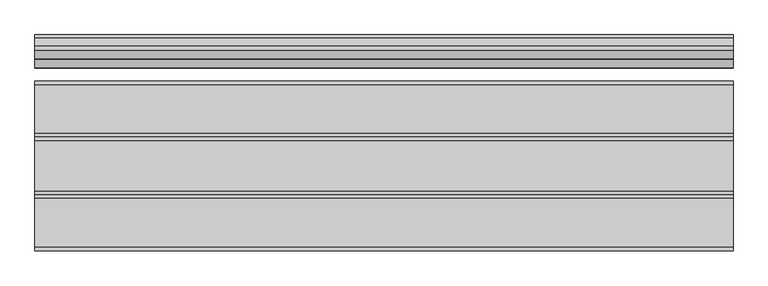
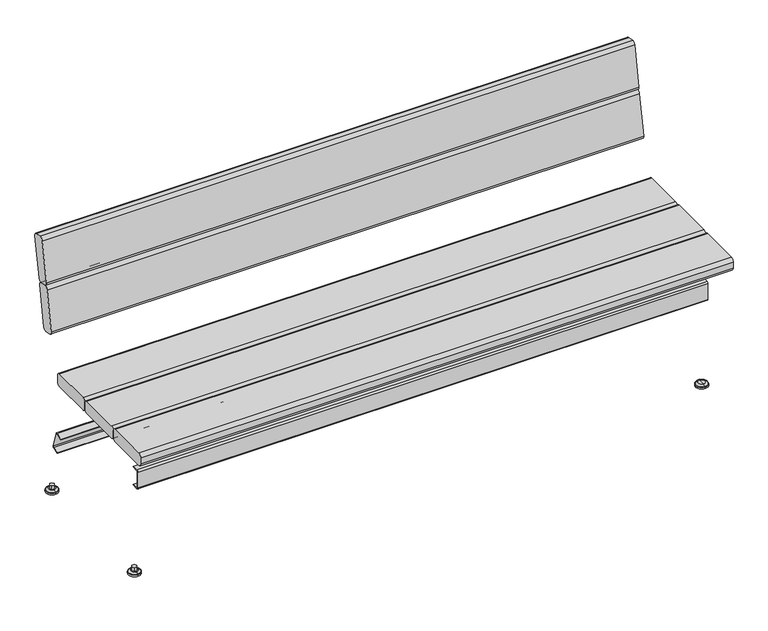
"""IFC4 building model written with IfcOpenShell, lengths in millimetres: furniture geometry, Roros Produkter - Trend - Bench - Backrest - 32982 : Roros Produkter - Trend - Bench - Backrest - 32982."""

import ifcopenshell
import ifcopenshell.guid

model = None  # the IFC model being written
_history = None  # IfcOwnerHistory: only IFC2X3 demands one
_inside = {}  # id of a spatial element -> (the spatial element, [elements in it])
_under = {}  # id of a project, library or spatial element -> (it, [spatial elements below it])
_declared = {}  # id of a project -> (the project, [libraries it declares])
_typed = {}  # id of a type object -> (the type object, [elements of that type])
_made_of = {}  # id of a material, layer set ... -> (it, [elements and type objects made of it])


def new_model(schema):
    """Start an empty IFC model of exactly this schema.

    Asked for "IFC4X3", IfcOpenShell would pick the latest addendum, in which some entities
    have other attributes; the version numbers below select the first issue.
    IFC2X3 requires an IfcOwnerHistory on every rooted entity: one is made here for all.
    """
    global model, _history
    if schema == "IFC4X3":
        model = ifcopenshell.file(schema_version=(4, 3, 0, 0))
    else:
        model = ifcopenshell.file(schema=schema)
    _inside.clear()
    _under.clear()
    _declared.clear()
    _typed.clear()
    _made_of.clear()
    _history = None
    if model.schema == "IFC2X3":
        org = make("IfcOrganization", Name="unknown")
        user = make(
            "IfcPersonAndOrganization",
            ThePerson=make("IfcPerson", FamilyName="unknown"),
            TheOrganization=org,
        )
        app = make(
            "IfcApplication",
            ApplicationDeveloper=org,
            Version="unknown",
            ApplicationFullName="unknown",
            ApplicationIdentifier="unknown",
        )
        _history = make(
            "IfcOwnerHistory",
            OwningUser=user,
            OwningApplication=app,
            ChangeAction="ADDED",
            CreationDate=0,
        )
    return model


def make(cls, **values):
    """One entity of the class cls with the attributes given. An attribute that is None is left unset."""
    return model.create_entity(
        cls, **{name: value for name, value in values.items() if value is not None}
    )


def rooted(cls, **values):
    """An entity with a GlobalId (a new one), such as an element, a storey or a relation."""
    return make(cls, GlobalId=ifcopenshell.guid.new(), OwnerHistory=_history, **values)


def si_unit(unit_type, name, prefix=None):
    """IfcSIUnit, for example si_unit("LENGTHUNIT", "METRE", prefix="MILLI")."""
    return make("IfcSIUnit", UnitType=unit_type, Prefix=prefix, Name=name)


def assignment(units):
    """IfcUnitAssignment: the units of a project."""
    return None if units is None else make("IfcUnitAssignment", Units=units)


def point(xyz):
    """IfcCartesianPoint."""
    return None if xyz is None else make("IfcCartesianPoint", Coordinates=xyz)


def direction(xyz):
    """IfcDirection."""
    return None if xyz is None else make("IfcDirection", DirectionRatios=xyz)


def frame(location, z_axis=None, x_axis=None):
    """IfcAxis2Placement3D, a coordinate frame: its origin and axes. An axis left out is left unset."""
    return make(
        "IfcAxis2Placement3D",
        Location=point(location),
        Axis=direction(z_axis),
        RefDirection=direction(x_axis),
    )


def frame_2d(location, x_axis=None):
    """IfcAxis2Placement2D, a coordinate frame in the plane: its origin and x axis."""
    return make(
        "IfcAxis2Placement2D", Location=point(location), RefDirection=direction(x_axis)
    )


def origin():
    """The frame at (0, 0, 0) with its axes left unset."""
    return frame((0.0, 0.0, 0.0))


def place(relative_to, where):
    """IfcLocalPlacement: puts the frame where relative to a parent placement (None: the world)."""
    return make(
        "IfcLocalPlacement", PlacementRelTo=relative_to, RelativePlacement=where
    )


def context(
    kind, dimensions, precision=None, world=None, true_north=None, identifier=None
):
    """IfcGeometricRepresentationContext, for example the 3D "Model" context."""
    return make(
        "IfcGeometricRepresentationContext",
        ContextIdentifier=identifier,
        ContextType=kind,
        CoordinateSpaceDimension=dimensions,
        Precision=precision,
        WorldCoordinateSystem=world,
        TrueNorth=true_north,
    )


def project(units=None, contexts=None):
    """IfcProject with its units and contexts."""
    return rooted(
        "IfcProject",
        Name="project",
        RepresentationContexts=contexts,
        UnitsInContext=assignment(units),
    )


def spatial(cls, under=None, at=None, **own):
    """A site, building, storey or space (cls), placed at a placement, below another one or the project."""
    s = rooted(cls, ObjectPlacement=at, **own)
    if under is not None:
        _under.setdefault(under.id(), (under, []))[1].append(s)
    return s


def polyline(points):
    """IfcPolyline through the points."""
    return make("IfcPolyline", Points=[point(p) for p in points])


def circle_curve(where, radius):
    """IfcCircle in the frame where."""
    return make("IfcCircle", Position=where, Radius=radius)


def ellipse_curve(where, semi_axis1, semi_axis2):
    """IfcEllipse in the frame where."""
    return make(
        "IfcEllipse", Position=where, SemiAxis1=semi_axis1, SemiAxis2=semi_axis2
    )


def trimmed(basis, trim1, trim2, sense, master):
    """IfcTrimmedCurve: the piece of a basis curve between two trims."""
    return make(
        "IfcTrimmedCurve",
        BasisCurve=basis,
        Trim1=trim1,
        Trim2=trim2,
        SenseAgreement=sense,
        MasterRepresentation=master,
    )


def segment(curve, same_sense, transition):
    """IfcCompositeCurveSegment."""
    return make(
        "IfcCompositeCurveSegment",
        Transition=transition,
        SameSense=same_sense,
        ParentCurve=curve,
    )


def composite_curve(segments, self_intersect=None):
    """IfcCompositeCurve: segments joined end to end."""
    return make("IfcCompositeCurve", Segments=segments, SelfIntersect=self_intersect)


def outline(outer, holes=None, kind="AREA"):
    """IfcArbitraryClosedProfileDef: a profile drawn as a closed curve; with holes, ...WithVoids."""
    if holes is None:
        return make("IfcArbitraryClosedProfileDef", ProfileType=kind, OuterCurve=outer)
    return make(
        "IfcArbitraryProfileDefWithVoids",
        ProfileType=kind,
        OuterCurve=outer,
        InnerCurves=holes,
    )


def extrude(swept, where, along, depth):
    """IfcExtrudedAreaSolid: the profile swept, set in the frame where, extruded along a direction by depth."""
    return make(
        "IfcExtrudedAreaSolid",
        SweptArea=swept,
        Position=where,
        ExtrudedDirection=direction(along),
        Depth=depth,
    )


def shape(context_of_items, identifier, shape_type, items):
    """IfcShapeRepresentation: the items that make up one representation, for example the "Body"."""
    return make(
        "IfcShapeRepresentation",
        ContextOfItems=context_of_items,
        RepresentationIdentifier=identifier,
        RepresentationType=shape_type,
        Items=items,
    )


def source(mapping_origin, context_of_items, identifier, shape_type, items):
    """IfcRepresentationMap: a shape defined once, which mapped items show again and again."""
    return make(
        "IfcRepresentationMap",
        MappingOrigin=mapping_origin,
        MappedRepresentation=shape(context_of_items, identifier, shape_type, items),
    )


def transform(
    local_origin,
    x_axis=None,
    y_axis=None,
    z_axis=None,
    scale=None,
    scale2=None,
    scale3=None,
    uniform=True,
):
    """IfcCartesianTransformationOperator3D, or its non-uniform kind. x_axis, y_axis, z_axis: its Axis1, 2, 3."""
    if uniform:
        return make(
            "IfcCartesianTransformationOperator3D",
            Axis1=direction(x_axis),
            Axis2=direction(y_axis),
            LocalOrigin=point(local_origin),
            Scale=scale,
            Axis3=direction(z_axis),
        )
    return make(
        "IfcCartesianTransformationOperator3DnonUniform",
        Axis1=direction(x_axis),
        Axis2=direction(y_axis),
        LocalOrigin=point(local_origin),
        Scale=scale,
        Axis3=direction(z_axis),
        Scale2=scale2,
        Scale3=scale3,
    )


def mapped(mapping_source, mapping_target):
    """IfcMappedItem: shows the shape of a source again, moved by a transform."""
    return make(
        "IfcMappedItem", MappingSource=mapping_source, MappingTarget=mapping_target
    )


def made_of(thing, what):
    """Note that an element or type object is made of a material, layer set ...; save() writes the relation."""
    if what is not None:
        _made_of.setdefault(what.id(), (what, []))[1].append(thing)
    return thing


def element(
    cls,
    number,
    at=None,
    inside=None,
    cuts=None,
    type_object=None,
    material=None,
    context=None,
    identifier="Body",
    shape_type=None,
    held_by="IfcProductDefinitionShape",
    body=None,
    shapes=None,
    **own,
):
    """One element of the class cls, such as IfcWall. Its Tag is "e" and its number.

    at: its placement. inside: the storey or other place that contains it. cuts: it is an
    opening in that element (IfcRelVoidsElement). A single representation is given by context,
    identifier, shape_type and body (its items); several are given by shapes. held_by: the class
    of the entity that holds the representations. save() writes the other relations.
    """
    e = rooted(cls, Tag="e%d" % number, ObjectPlacement=at, **own)
    if body is not None:
        shapes = [shape(context, identifier, shape_type, body)]
    if shapes is not None:
        e.Representation = make(held_by, Representations=shapes)
    if inside is not None:
        _inside.setdefault(inside.id(), (inside, []))[1].append(e)
    if cuts is not None:
        rooted(
            "IfcRelVoidsElement", RelatingBuildingElement=cuts, RelatedOpeningElement=e
        )
    if type_object is not None:
        _typed.setdefault(type_object.id(), (type_object, []))[1].append(e)
    return made_of(e, material)


def aggregate(whole, parts):
    """IfcRelAggregates: a whole, such as a stair, and the parts it consists of."""
    return rooted("IfcRelAggregates", RelatingObject=whole, RelatedObjects=parts)


def save(model, path):
    """Write the relations noted so far, then the file.

    IfcRelAggregates (storeys below a building ...), IfcRelContainedInSpatialStructure (elements
    in a storey), IfcRelDefinesByType, IfcRelAssociatesMaterial and IfcRelDeclares: one each for
    every whole, place, type object, material and project.
    """
    for whole, parts in _under.values():
        aggregate(whole, parts)
    for where, things in _inside.values():
        rooted(
            "IfcRelContainedInSpatialStructure",
            RelatedElements=things,
            RelatingStructure=where,
        )
    for kind, things in _typed.values():
        rooted("IfcRelDefinesByType", RelatedObjects=things, RelatingType=kind)
    for what, things in _made_of.values():
        rooted("IfcRelAssociatesMaterial", RelatedObjects=things, RelatingMaterial=what)
    for by, libraries in _declared.values():
        rooted("IfcRelDeclares", RelatingContext=by, RelatedDefinitions=libraries)
    model.write(path)


def plane_surface(at):
    """IfcPlane: the flat surface through the origin of the frame at, square to its z axis."""
    return make("IfcPlane", Position=at)


def cylinder_surface(at, radius):
    """IfcCylindricalSurface: all points at the distance radius from the z axis of the frame at."""
    return make("IfcCylindricalSurface", Position=at, Radius=radius)


def revolved_surface(curve, axis_point, axis_direction):
    """IfcSurfaceOfRevolution: the curve turned about the line through axis_point along axis_direction."""
    return make(
        "IfcSurfaceOfRevolution",
        SweptCurve=make("IfcArbitraryOpenProfileDef", ProfileType="CURVE", Curve=curve),
        AxisPosition=make("IfcAxis1Placement", Location=point(axis_point), Axis=direction(axis_direction)),
    )


def advanced_brep(points, edges, surfaces, faces):
    """IfcAdvancedBrep: a solid bounded by faces that lie on surfaces and meet in shared edges.

    An edge is (start, end): straight between two places in points (the first is 0);
    or (start, end, curve); or (start, end, curve, False) where it runs against its curve.
    A face is (place in surfaces, loops), or (place, loops, False) where it looks against
    its surface's normal. A loop lists edges by number (the first is 1), with a minus sign
    where the edge is run from its end to its start. The first loop is the outer one.
    """
    corners = [point(p) for p in points]
    vertices = [make("IfcVertexPoint", VertexGeometry=c) for c in corners]
    made = []
    for start, end, *more in edges:
        made.append(
            make(
                "IfcEdgeCurve",
                EdgeStart=vertices[start],
                EdgeEnd=vertices[end],
                EdgeGeometry=more[0] if more else make("IfcPolyline", Points=[corners[start], corners[end]]),
                SameSense=more[1] if len(more) > 1 else True,
            )
        )
    hull = []
    for where, loops, *sense in faces:
        bounds = []
        for j, loop in enumerate(loops):
            ring = [make("IfcOrientedEdge", EdgeElement=made[abs(k) - 1], Orientation=k > 0) for k in loop]
            bounds.append(
                make(
                    "IfcFaceOuterBound" if j == 0 else "IfcFaceBound",
                    Bound=make("IfcEdgeLoop", EdgeList=ring),
                    Orientation=True,
                )
            )
        hull.append(make("IfcAdvancedFace", Bounds=bounds, FaceSurface=surfaces[where], SameSense=sense[0] if sense else True))
    return make("IfcAdvancedBrep", Outer=make("IfcClosedShell", CfsFaces=hull))


def furniture_2495d7e9(model_context):
    return source(origin(), model_context, "Body", "SolidModel", [
        advanced_brep(
        [(865.78125, -199.3308404, 4.3376919), (865.78125, -236.3308404, 4.3376919), (865.78125, -236.3308404, 0.0), (865.78125, -199.3308404, 0.0), (865.78125, -200.3216002, 6.0888539), (865.78125, -235.3400807, 6.0888539), (865.78125, -206.8308404, 10.0), (865.78125, -228.8308404, 10.0), (865.78125, -217.8308404, 10.0), (865.78125, -217.8308404, 0.0)],
        [
            (0, 1, circle_curve(frame((865.78125, -217.8308404, 4.3376919), z_axis=(0.0, 0.0, -1.0), x_axis=(0.0, -1.0, 0.0)), 18.5)),
            (1, 2),
            (2, 3, circle_curve(frame((865.78125, -217.8308404, 0.0), z_axis=(0.0, 0.0, 1.0), x_axis=(0.0, -1.0, 0.0)), 18.5)),
            (3, 0),
            (1, 0, circle_curve(frame((865.78125, -217.8308404, 4.3376919), z_axis=(0.0, 0.0, -1.0), x_axis=(0.0, -1.0, 0.0)), 18.5)),
            (3, 2, circle_curve(frame((865.78125, -217.8308404, 0.0), z_axis=(0.0, 0.0, 1.0), x_axis=(0.0, -1.0, 0.0)), 18.5)),
            (4, 5, circle_curve(frame((865.78125, -217.8308404, 6.0888539), z_axis=(0.0, 0.0, -1.0), x_axis=(0.0, -1.0, 0.0)), 17.5092402)),
            (5, 1, circle_curve(frame((865.78125, -234.2878764, 4.3376919), z_axis=(1.0, 0.0, 0.0), x_axis=(0.0, 1.0, 0.0)), 2.042964)),
            (0, 4, circle_curve(frame((865.78125, -201.3738045, 4.3376919), z_axis=(1.0, 0.0, 0.0), x_axis=(0.0, -1.0, 0.0)), 2.042964)),
            (5, 4, circle_curve(frame((865.78125, -217.8308404, 6.0888539), z_axis=(0.0, 0.0, -1.0), x_axis=(0.0, -1.0, 0.0)), 17.5092402)),
            (6, 7, circle_curve(frame((865.78125, -217.8308404, 10.0), z_axis=(0.0, 0.0, -1.0), x_axis=(0.0, -1.0, 0.0)), 11.0)),
            (7, 5),
            (4, 6),
            (7, 6, circle_curve(frame((865.78125, -217.8308404, 10.0), z_axis=(0.0, 0.0, -1.0), x_axis=(0.0, -1.0, 0.0)), 11.0)),
            (8, 7),
            (6, 8),
            (2, 9),
            (9, 3),
        ],
        [
            cylinder_surface(frame((865.78125, -217.8308404, 10.0), z_axis=(0.0, 0.0, 1.0), x_axis=(0.0, -1.0, 0.0)), 18.5),
            revolved_surface(trimmed(ellipse_curve(frame((865.78125, -234.2878764, 4.3376919), z_axis=(-1.0, 0.0, 0.0), x_axis=(0.0, 1.0, 0.0)), 2.042964, 2.042964), [point((865.78125, -236.3308404, 4.3376919))], [point((865.78125, -235.3400807, 6.0888539))], True, "CARTESIAN"), (865.78125, -217.8308404, 10.0), (0.0, 0.0, 1.0)),
            revolved_surface(polyline([(865.78125, -235.3400807, 6.0888539), (865.78125, -228.8308404, 10.0)]), (865.78125, -217.8308404, 10.0), (0.0, 0.0, 1.0)),
            plane_surface(frame((865.78125, -217.8308404, 10.0), z_axis=(0.0, 0.0, 1.0), x_axis=(0.0, -1.0, 0.0))),
            plane_surface(frame((865.78125, -217.8308404, 0.0), z_axis=(0.0, 0.0, -1.0), x_axis=(0.0, -1.0, 0.0))),
        ],
        [
            (0, [[1, 2, 3, 4]]),
            (0, [[5, -4, 6, -2]]),
            (1, [[7, 8, -1, 9]]),
            (1, [[10, -9, -5, -8]]),
            (2, [[11, 12, -7, 13]]),
            (2, [[14, -13, -10, -12]]),
            (3, [[15, -11, 16]]),
            (3, [[-16, -14, -15]]),
            (4, [[-3, 17, 18]]),
            (4, [[-6, -18, -17]]),
        ],
    ),
        extrude(outline(polyline([(869.5527767, 224.3308404), (873.3055535, 217.8308404), (869.5527767, 211.3308404), (862.0472233, 211.3308404), (858.2944465, 217.8308404), (862.0472233, 224.3308404), (869.5527767, 224.3308404)])), frame((0.0, 0.0, 10.0), z_axis=(0.0, 0.0, 1.0), x_axis=(1.0, 0.0, 0.0)), (0.0, 0.0, 1.0), 11.7),
        advanced_brep(
        [(865.78125, 199.3308404, 0.0), (865.78125, 236.3308404, 0.0), (865.78125, 236.3308404, 4.3376919), (865.78125, 199.3308404, 4.3376919), (865.78125, 235.3400807, 6.0888539), (865.78125, 200.3216002, 6.0888539), (865.78125, 228.8308404, 10.0), (865.78125, 206.8308404, 10.0), (865.78125, 217.8308404, 10.0), (865.78125, 217.8308404, 0.0)],
        [
            (0, 1, circle_curve(frame((865.78125, 217.8308404, 0.0), z_axis=(0.0, 0.0, 1.0), x_axis=(0.0, 1.0, 0.0)), 18.5)),
            (1, 2),
            (2, 3, circle_curve(frame((865.78125, 217.8308404, 4.3376919), z_axis=(0.0, 0.0, -1.0), x_axis=(0.0, 1.0, 0.0)), 18.5)),
            (3, 0),
            (1, 0, circle_curve(frame((865.78125, 217.8308404, 0.0), z_axis=(0.0, 0.0, 1.0), x_axis=(0.0, 1.0, 0.0)), 18.5)),
            (3, 2, circle_curve(frame((865.78125, 217.8308404, 4.3376919), z_axis=(0.0, 0.0, -1.0), x_axis=(0.0, 1.0, 0.0)), 18.5)),
            (2, 4, circle_curve(frame((865.78125, 234.2878764, 4.3376919), z_axis=(1.0, 0.0, 0.0), x_axis=(0.0, -1.0, 0.0)), 2.042964)),
            (4, 5, circle_curve(frame((865.78125, 217.8308404, 6.0888539), z_axis=(0.0, 0.0, -1.0), x_axis=(0.0, 1.0, 0.0)), 17.5092402)),
            (5, 3, circle_curve(frame((865.78125, 201.3738045, 4.3376919), z_axis=(1.0, 0.0, 0.0), x_axis=(0.0, 1.0, 0.0)), 2.042964)),
            (5, 4, circle_curve(frame((865.78125, 217.8308404, 6.0888539), z_axis=(0.0, 0.0, -1.0), x_axis=(0.0, 1.0, 0.0)), 17.5092402)),
            (4, 6),
            (6, 7, circle_curve(frame((865.78125, 217.8308404, 10.0), z_axis=(0.0, 0.0, -1.0), x_axis=(0.0, 1.0, 0.0)), 11.0)),
            (7, 5),
            (7, 6, circle_curve(frame((865.78125, 217.8308404, 10.0), z_axis=(0.0, 0.0, -1.0), x_axis=(0.0, 1.0, 0.0)), 11.0)),
            (6, 8),
            (8, 7),
            (9, 1),
            (0, 9),
        ],
        [
            cylinder_surface(frame((865.78125, 217.8308404, 10.0), z_axis=(0.0, 0.0, -1.0), x_axis=(0.0, 1.0, 0.0)), 18.5),
            revolved_surface(trimmed(ellipse_curve(frame((865.78125, 234.2878764, 4.3376919), z_axis=(-1.0, 0.0, 0.0), x_axis=(0.0, -1.0, 0.0)), 2.042964, 2.042964), [point((865.78125, 235.3400807, 6.0888539))], [point((865.78125, 236.3308404, 4.3376919))], True, "CARTESIAN"), (865.78125, 217.8308404, 10.0), (0.0, 0.0, -1.0)),
            revolved_surface(polyline([(865.78125, 228.8308404, 10.0), (865.78125, 235.3400807, 6.0888539)]), (865.78125, 217.8308404, 10.0), (0.0, 0.0, -1.0)),
            plane_surface(frame((865.78125, 217.8308404, 10.0), z_axis=(0.0, 0.0, 1.0), x_axis=(0.0, 1.0, 0.0))),
            plane_surface(frame((865.78125, 217.8308404, 0.0), z_axis=(0.0, 0.0, -1.0), x_axis=(0.0, 1.0, 0.0))),
        ],
        [
            (0, [[1, 2, 3, 4]]),
            (0, [[5, -4, 6, -2]]),
            (1, [[-3, 7, 8, 9]]),
            (1, [[-6, -9, 10, -7]]),
            (2, [[-8, 11, 12, 13]]),
            (2, [[-10, -13, 14, -11]]),
            (3, [[-12, 15, 16]]),
            (3, [[-14, -16, -15]]),
            (4, [[17, -1, 18]]),
            (4, [[-18, -5, -17]]),
        ],
    ),
        extrude(outline(polyline([(-869.5527767, -224.3308404), (-873.3055535, -217.8308404), (-869.5527767, -211.3308404), (-862.0472233, -211.3308404), (-858.2944465, -217.8308404), (-862.0472233, -224.3308404), (-869.5527767, -224.3308404)])), frame((0.0, 0.0, 10.0), z_axis=(0.0, 0.0, 1.0), x_axis=(1.0, 0.0, 0.0)), (0.0, 0.0, 1.0), 11.7),
        advanced_brep(
        [(-865.78125, -199.3308404, 0.0), (-865.78125, -236.3308404, 0.0), (-865.78125, -236.3308404, 4.3376919), (-865.78125, -199.3308404, 4.3376919), (-865.78125, -235.3400807, 6.0888539), (-865.78125, -200.3216002, 6.0888539), (-865.78125, -228.8308404, 10.0), (-865.78125, -206.8308404, 10.0), (-865.78125, -217.8308404, 10.0), (-865.78125, -217.8308404, 0.0)],
        [
            (0, 1, circle_curve(frame((-865.78125, -217.8308404, 0.0), z_axis=(0.0, 0.0, 1.0), x_axis=(0.0, -1.0, 0.0)), 18.5)),
            (1, 2),
            (2, 3, circle_curve(frame((-865.78125, -217.8308404, 4.3376919), z_axis=(0.0, 0.0, -1.0), x_axis=(0.0, -1.0, 0.0)), 18.5)),
            (3, 0),
            (1, 0, circle_curve(frame((-865.78125, -217.8308404, 0.0), z_axis=(0.0, 0.0, 1.0), x_axis=(0.0, -1.0, 0.0)), 18.5)),
            (3, 2, circle_curve(frame((-865.78125, -217.8308404, 4.3376919), z_axis=(0.0, 0.0, -1.0), x_axis=(0.0, -1.0, 0.0)), 18.5)),
            (2, 4, circle_curve(frame((-865.78125, -234.2878764, 4.3376919), z_axis=(-1.0, 0.0, 0.0), x_axis=(0.0, 1.0, 0.0)), 2.042964)),
            (4, 5, circle_curve(frame((-865.78125, -217.8308404, 6.0888539), z_axis=(0.0, 0.0, -1.0), x_axis=(0.0, -1.0, 0.0)), 17.5092402)),
            (5, 3, circle_curve(frame((-865.78125, -201.3738045, 4.3376919), z_axis=(-1.0, 0.0, 0.0), x_axis=(0.0, -1.0, 0.0)), 2.042964)),
            (5, 4, circle_curve(frame((-865.78125, -217.8308404, 6.0888539), z_axis=(0.0, 0.0, -1.0), x_axis=(0.0, -1.0, 0.0)), 17.5092402)),
            (4, 6),
            (6, 7, circle_curve(frame((-865.78125, -217.8308404, 10.0), z_axis=(0.0, 0.0, -1.0), x_axis=(0.0, -1.0, 0.0)), 11.0)),
            (7, 5),
            (7, 6, circle_curve(frame((-865.78125, -217.8308404, 10.0), z_axis=(0.0, 0.0, -1.0), x_axis=(0.0, -1.0, 0.0)), 11.0)),
            (6, 8),
            (8, 7),
            (9, 1),
            (0, 9),
        ],
        [
            cylinder_surface(frame((-865.78125, -217.8308404, 10.0), z_axis=(0.0, 0.0, -1.0), x_axis=(0.0, -1.0, 0.0)), 18.5),
            revolved_surface(trimmed(ellipse_curve(frame((-865.78125, -234.2878764, 4.3376919), z_axis=(1.0, 0.0, 0.0), x_axis=(0.0, 1.0, 0.0)), 2.042964, 2.042964), [point((-865.78125, -235.3400807, 6.0888539))], [point((-865.78125, -236.3308404, 4.3376919))], True, "CARTESIAN"), (-865.78125, -217.8308404, 10.0), (0.0, 0.0, -1.0)),
            revolved_surface(polyline([(-865.78125, -228.8308404, 10.0), (-865.78125, -235.3400807, 6.0888539)]), (-865.78125, -217.8308404, 10.0), (0.0, 0.0, -1.0)),
            plane_surface(frame((-865.78125, -217.8308404, 10.0), z_axis=(0.0, 0.0, 1.0), x_axis=(0.0, -1.0, 0.0))),
            plane_surface(frame((-865.78125, -217.8308404, 0.0), z_axis=(0.0, 0.0, -1.0), x_axis=(0.0, -1.0, 0.0))),
        ],
        [
            (0, [[1, 2, 3, 4]]),
            (0, [[5, -4, 6, -2]]),
            (1, [[-3, 7, 8, 9]]),
            (1, [[-6, -9, 10, -7]]),
            (2, [[-8, 11, 12, 13]]),
            (2, [[-10, -13, 14, -11]]),
            (3, [[-12, 15, 16]]),
            (3, [[-14, -16, -15]]),
            (4, [[17, -1, 18]]),
            (4, [[-18, -5, -17]]),
        ],
    ),
        extrude(outline(polyline([(-869.5527767, 224.3308404), (-862.0472233, 224.3308404), (-858.2944465, 217.8308404), (-862.0472233, 211.3308404), (-869.5527767, 211.3308404), (-873.3055535, 217.8308404), (-869.5527767, 224.3308404)])), frame((0.0, 0.0, 10.0), z_axis=(0.0, 0.0, 1.0), x_axis=(1.0, 0.0, 0.0)), (0.0, 0.0, 1.0), 11.7),
        advanced_brep(
        [(-865.78125, 199.3308404, 4.3376919), (-865.78125, 236.3308404, 4.3376919), (-865.78125, 236.3308404, 0.0), (-865.78125, 199.3308404, 0.0), (-865.78125, 200.3216002, 6.0888539), (-865.78125, 235.3400807, 6.0888539), (-865.78125, 206.8308404, 10.0), (-865.78125, 228.8308404, 10.0), (-865.78125, 217.8308404, 10.0), (-865.78125, 217.8308404, 0.0)],
        [
            (0, 1, circle_curve(frame((-865.78125, 217.8308404, 4.3376919), z_axis=(0.0, 0.0, -1.0), x_axis=(0.0, 1.0, 0.0)), 18.5)),
            (1, 2),
            (2, 3, circle_curve(frame((-865.78125, 217.8308404, 0.0), z_axis=(0.0, 0.0, 1.0), x_axis=(0.0, 1.0, 0.0)), 18.5)),
            (3, 0),
            (1, 0, circle_curve(frame((-865.78125, 217.8308404, 4.3376919), z_axis=(0.0, 0.0, -1.0), x_axis=(0.0, 1.0, 0.0)), 18.5)),
            (3, 2, circle_curve(frame((-865.78125, 217.8308404, 0.0), z_axis=(0.0, 0.0, 1.0), x_axis=(0.0, 1.0, 0.0)), 18.5)),
            (4, 5, circle_curve(frame((-865.78125, 217.8308404, 6.0888539), z_axis=(0.0, 0.0, -1.0), x_axis=(0.0, 1.0, 0.0)), 17.5092402)),
            (5, 1, circle_curve(frame((-865.78125, 234.2878764, 4.3376919), z_axis=(-1.0, 0.0, 0.0), x_axis=(0.0, -1.0, 0.0)), 2.042964)),
            (0, 4, circle_curve(frame((-865.78125, 201.3738045, 4.3376919), z_axis=(-1.0, 0.0, 0.0), x_axis=(0.0, 1.0, 0.0)), 2.042964)),
            (5, 4, circle_curve(frame((-865.78125, 217.8308404, 6.0888539), z_axis=(0.0, 0.0, -1.0), x_axis=(0.0, 1.0, 0.0)), 17.5092402)),
            (6, 7, circle_curve(frame((-865.78125, 217.8308404, 10.0), z_axis=(0.0, 0.0, -1.0), x_axis=(0.0, 1.0, 0.0)), 11.0)),
            (7, 5),
            (4, 6),
            (7, 6, circle_curve(frame((-865.78125, 217.8308404, 10.0), z_axis=(0.0, 0.0, -1.0), x_axis=(0.0, 1.0, 0.0)), 11.0)),
            (8, 7),
            (6, 8),
            (2, 9),
            (9, 3),
        ],
        [
            cylinder_surface(frame((-865.78125, 217.8308404, 10.0), z_axis=(0.0, 0.0, 1.0), x_axis=(0.0, 1.0, 0.0)), 18.5),
            revolved_surface(trimmed(ellipse_curve(frame((-865.78125, 234.2878764, 4.3376919), z_axis=(1.0, 0.0, 0.0), x_axis=(0.0, -1.0, 0.0)), 2.042964, 2.042964), [point((-865.78125, 236.3308404, 4.3376919))], [point((-865.78125, 235.3400807, 6.0888539))], True, "CARTESIAN"), (-865.78125, 217.8308404, 10.0), (0.0, 0.0, 1.0)),
            revolved_surface(polyline([(-865.78125, 235.3400807, 6.0888539), (-865.78125, 228.8308404, 10.0)]), (-865.78125, 217.8308404, 10.0), (0.0, 0.0, 1.0)),
            plane_surface(frame((-865.78125, 217.8308404, 10.0), z_axis=(0.0, 0.0, 1.0), x_axis=(0.0, 1.0, 0.0))),
            plane_surface(frame((-865.78125, 217.8308404, 0.0), z_axis=(0.0, 0.0, -1.0), x_axis=(0.0, 1.0, 0.0))),
        ],
        [
            (0, [[1, 2, 3, 4]]),
            (0, [[5, -4, 6, -2]]),
            (1, [[7, 8, -1, 9]]),
            (1, [[10, -9, -5, -8]]),
            (2, [[11, 12, -7, 13]]),
            (2, [[14, -13, -10, -12]]),
            (3, [[15, -11, 16]]),
            (3, [[-16, -14, -15]]),
            (4, [[-3, 17, 18]]),
            (4, [[-6, -18, -17]]),
        ],
    ),
        extrude(outline(composite_curve([segment(trimmed(circle_curve(frame_2d((-32.8308404, 445.464)), 10.0), [point((-32.8308404, 455.464))], [point((-22.8308404, 445.464))], False, "CARTESIAN"), True, "CONTINUOUS"), segment(polyline([(-22.8308404, 445.464), (-22.8308404, 425.464)]), True, "CONTINUOUS"), segment(trimmed(circle_curve(frame_2d((-32.8308404, 425.464)), 10.0), [point((-22.8308404, 425.464))], [point((-32.8308404, 415.464))], False, "CARTESIAN"), True, "CONTINUOUS"), segment(polyline([(-32.8308404, 415.464), (-162.8308404, 415.464)]), True, "CONTINUOUS"), segment(trimmed(circle_curve(frame_2d((-162.8308404, 425.464)), 10.0), [point((-162.8308404, 415.464))], [point((-172.8308404, 425.464))], False, "CARTESIAN"), True, "CONTINUOUS"), segment(polyline([(-172.8308404, 425.464), (-172.8308404, 445.464)]), True, "CONTINUOUS"), segment(trimmed(circle_curve(frame_2d((-162.8308404, 445.464)), 10.0), [point((-172.8308404, 445.464))], [point((-162.8308404, 455.464))], False, "CARTESIAN"), True, "CONTINUOUS"), segment(polyline([(-162.8308404, 455.464), (-32.8308404, 455.464)]), True, "CONTINUOUS")], self_intersect=False)), frame((-904.0, 0.0, 0.0), z_axis=(1.0, 0.0, 0.0), x_axis=(0.0, 1.0, 0.0)), (0.0, 0.0, 1.0), 1808.0),
        extrude(outline(composite_curve([segment(trimmed(circle_curve(frame_2d((231.9175378, 825.7240761)), 10.0), [point((233.6540196, 835.5721536))], [point((241.7656153, 823.9875943))], False, "CARTESIAN"), True, "CONTINUOUS"), segment(polyline([(241.7656153, 823.9875943), (220.0595931, 700.8866252)]), True, "CONTINUOUS"), segment(trimmed(circle_curve(frame_2d((210.2115156, 702.623107)), 10.0), [point((220.0595931, 700.8866252))], [point((208.4750338, 692.7750295))], False, "CARTESIAN"), True, "CONTINUOUS"), segment(polyline([(208.4750338, 692.7750295), (188.7788787, 696.247993)]), True, "CONTINUOUS"), segment(trimmed(circle_curve(frame_2d((190.5153605, 706.0960705)), 10.0), [point((188.7788787, 696.247993))], [point((180.667283, 707.8325523))], False, "CARTESIAN"), True, "CONTINUOUS"), segment(polyline([(180.667283, 707.8325523), (202.3733052, 830.9335214)]), True, "CONTINUOUS"), segment(trimmed(circle_curve(frame_2d((212.2213827, 829.1970397)), 10.0), [point((202.3733052, 830.9335214))], [point((213.9578645, 839.0451172))], False, "CARTESIAN"), True, "CONTINUOUS"), segment(polyline([(213.9578645, 839.0451172), (233.6540196, 835.5721536)]), True, "CONTINUOUS")], self_intersect=False)), frame((-904.0, 0.0, 0.0), z_axis=(1.0, 0.0, 0.0), x_axis=(0.0, 1.0, 0.0)), (0.0, 0.0, 1.0), 1808.0),
        extrude(outline(composite_curve([segment(trimmed(circle_curve(frame_2d((112.1691596, 445.464)), 10.0), [point((112.1691596, 455.464))], [point((122.1691596, 445.464))], False, "CARTESIAN"), True, "CONTINUOUS"), segment(polyline([(122.1691596, 445.464), (122.1691596, 425.464)]), True, "CONTINUOUS"), segment(trimmed(circle_curve(frame_2d((112.1691596, 425.464)), 10.0), [point((122.1691596, 425.464))], [point((112.1691596, 415.464))], False, "CARTESIAN"), True, "CONTINUOUS"), segment(polyline([(112.1691596, 415.464), (-12.8308404, 415.464)]), True, "CONTINUOUS"), segment(trimmed(circle_curve(frame_2d((-12.8308404, 425.464)), 10.0), [point((-12.8308404, 415.464))], [point((-22.8308404, 425.464))], False, "CARTESIAN"), True, "CONTINUOUS"), segment(polyline([(-22.8308404, 425.464), (-22.8308404, 445.464)]), True, "CONTINUOUS"), segment(trimmed(circle_curve(frame_2d((-12.8308404, 445.464)), 10.0), [point((-22.8308404, 445.464))], [point((-12.8308404, 455.464))], False, "CARTESIAN"), True, "CONTINUOUS"), segment(polyline([(-12.8308404, 455.464), (112.1691596, 455.464)]), True, "CONTINUOUS")], self_intersect=False)), frame((-904.0, 0.0, 0.0), z_axis=(1.0, 0.0, 0.0), x_axis=(0.0, 1.0, 0.0)), (0.0, 0.0, 1.0), 1808.0),
        extrude(outline(composite_curve([segment(trimmed(circle_curve(frame_2d((-182.8308404, 445.464)), 10.0), [point((-182.8308404, 455.464))], [point((-172.8308404, 445.464))], False, "CARTESIAN"), True, "CONTINUOUS"), segment(polyline([(-172.8308404, 445.464), (-172.8308404, 425.464)]), True, "CONTINUOUS"), segment(trimmed(circle_curve(frame_2d((-182.8308404, 425.464)), 10.0), [point((-172.8308404, 425.464))], [point((-182.8308404, 415.464))], False, "CARTESIAN"), True, "CONTINUOUS"), segment(polyline([(-182.8308404, 415.464), (-307.8308404, 415.464)]), True, "CONTINUOUS"), segment(trimmed(circle_curve(frame_2d((-307.8308404, 425.464)), 10.0), [point((-307.8308404, 415.464))], [point((-317.8308404, 425.464))], False, "CARTESIAN"), True, "CONTINUOUS"), segment(polyline([(-317.8308404, 425.464), (-317.8308404, 445.464)]), True, "CONTINUOUS"), segment(trimmed(circle_curve(frame_2d((-307.8308404, 445.464)), 10.0), [point((-317.8308404, 445.464))], [point((-307.8308404, 455.464))], False, "CARTESIAN"), True, "CONTINUOUS"), segment(polyline([(-307.8308404, 455.464), (-182.8308404, 455.464)]), True, "CONTINUOUS")], self_intersect=False)), frame((-904.0, 0.0, 0.0), z_axis=(1.0, 0.0, 0.0), x_axis=(0.0, 1.0, 0.0)), (0.0, 0.0, 1.0), 1808.0),
        extrude(outline(composite_curve([segment(trimmed(circle_curve(frame_2d((165.3363748, 563.2989464)), 10.0), [point((163.599893, 553.4508688))], [point((155.4882972, 565.0354281))], False, "CARTESIAN"), True, "CONTINUOUS"), segment(polyline([(155.4882972, 565.0354281), (177.1943194, 688.1363973)]), True, "CONTINUOUS"), segment(trimmed(circle_curve(frame_2d((187.042397, 686.3999155)), 10.0), [point((177.1943194, 688.1363973))], [point((188.7788787, 696.247993))], False, "CARTESIAN"), True, "CONTINUOUS"), segment(polyline([(188.7788787, 696.247993), (208.4750338, 692.7750295)]), True, "CONTINUOUS"), segment(trimmed(circle_curve(frame_2d((206.738552, 682.9269519)), 10.0), [point((208.4750338, 692.7750295))], [point((216.5866296, 681.1904701))], False, "CARTESIAN"), True, "CONTINUOUS"), segment(polyline([(216.5866296, 681.1904701), (194.8806073, 558.089501)]), True, "CONTINUOUS"), segment(trimmed(circle_curve(frame_2d((185.0325298, 559.8259828)), 10.0), [point((194.8806073, 558.089501))], [point((183.296048, 549.9779053))], False, "CARTESIAN"), True, "CONTINUOUS"), segment(polyline([(183.296048, 549.9779053), (163.599893, 553.4508688)]), True, "CONTINUOUS")], self_intersect=False)), frame((-904.0, 0.0, 0.0), z_axis=(1.0, 0.0, 0.0), x_axis=(0.0, 1.0, 0.0)), (0.0, 0.0, 1.0), 1808.0),
        extrude(outline(composite_curve([segment(polyline([(-239.3308404, 346.7777471), (-218.8308404, 346.7777471), (-218.8308404, 344.777747), (-239.3308404, 344.777747)]), True, "CONTINUOUS"), segment(trimmed(circle_curve(frame_2d((-239.3308404, 342.277747)), 2.5), [point((-239.3308404, 344.777747))], [point((-241.8308404, 342.277747))], True, "CARTESIAN"), True, "CONTINUOUS"), segment(polyline([(-241.8308404, 342.277747), (-241.8308404, 291.2777432)]), True, "CONTINUOUS"), segment(trimmed(circle_curve(frame_2d((-239.3308404, 291.2777432)), 2.5), [point((-241.8308404, 291.2777432))], [point((-239.3308404, 288.7777432))], True, "CARTESIAN"), True, "CONTINUOUS"), segment(polyline([(-239.3308404, 288.7777432), (-218.8308404, 288.7777432), (-218.8308404, 286.7777431), (-239.3308404, 286.7777431)]), True, "CONTINUOUS"), segment(trimmed(circle_curve(frame_2d((-239.3308404, 291.2777431)), 4.5), [point((-239.3308404, 286.7777431))], [point((-243.8308404, 291.2777431))], False, "CARTESIAN"), True, "CONTINUOUS"), segment(polyline([(-243.8308404, 291.2777431), (-243.8308404, 342.2777471)]), True, "CONTINUOUS"), segment(trimmed(circle_curve(frame_2d((-239.3308404, 342.2777471)), 4.5), [point((-243.8308404, 342.2777471))], [point((-239.3308404, 346.7777471))], False, "CARTESIAN"), True, "CONTINUOUS")], self_intersect=False)), frame((-870.2946292, 0.0, 0.0), z_axis=(1.0, 0.0, 0.0), x_axis=(0.0, 1.0, 0.0)), (0.0, 0.0, 1.0), 1740.0001164),
        extrude(outline(composite_curve([segment(polyline([(162.9895923, 202.3205145), (182.4862509, 208.6553629)]), True, "CONTINUOUS"), segment(trimmed(circle_curve(frame_2d((183.8768274, 204.3756086)), 4.5), [point((182.4862509, 208.6553629))], [point((188.1565817, 205.766185))], False, "CARTESIAN"), True, "CONTINUOUS"), segment(polyline([(188.1565817, 205.766185), (203.9059435, 157.2946335)]), True, "CONTINUOUS"), segment(trimmed(circle_curve(frame_2d((199.5938584, 155.8935521)), 4.5339946), [point((203.9059435, 157.2946335))], [point((200.9949398, 151.581467))], False, "CARTESIAN"), True, "CONTINUOUS"), segment(polyline([(200.9949398, 151.581467), (181.530612, 145.2571235), (180.912578, 147.1592366), (200.4250242, 153.4992147)]), True, "CONTINUOUS"), segment(trimmed(circle_curve(frame_2d((199.6576115, 155.8610683)), 2.4833999), [point((200.4250242, 153.4992147))], [point((202.0194651, 156.6284811))], True, "CARTESIAN"), True, "CONTINUOUS"), segment(polyline([(202.0194651, 156.6284811), (186.2544687, 205.1481511)]), True, "CONTINUOUS"), segment(trimmed(circle_curve(frame_2d((183.8768274, 204.3756086)), 2.5), [point((186.2544687, 205.1481511))], [point((183.1042849, 206.7532499))], True, "CARTESIAN"), True, "CONTINUOUS"), segment(polyline([(183.1042849, 206.7532499), (163.6076263, 200.4184015), (162.9895923, 202.3205145)]), True, "CONTINUOUS")], self_intersect=False)), frame((-870.3, 0.0, 0.0), z_axis=(1.0, 0.0, 0.0), x_axis=(0.0, 1.0, 0.0)), (0.0, 0.0, 1.0), 1740.0),
    ])


if __name__ == "__main__":
    model = new_model("IFC4")
    model_context = context("Model", 3, world=origin())
    ifc_project = project(units=[si_unit("LENGTHUNIT", "METRE", prefix="MILLI")], contexts=[model_context])
    site = spatial("IfcSite", under=ifc_project)
    building = spatial("IfcBuilding", under=site)
    placement = place(None, origin())
    furniture_shape = furniture_2495d7e9(model_context)
    element("IfcFurniture", 1, ObjectType="Roros Produkter - Trend - Bench - Backrest - 32982 : Roros Produkter - Trend - Bench - Backrest - 32982", at=placement, inside=building, context=model_context, shape_type="MappedRepresentation", body=[
        mapped(furniture_shape, transform((0.0, 0.0, 0.0), x_axis=(1.0, 0.0, 0.0), y_axis=(0.0, 1.0, 0.0), z_axis=(0.0, 0.0, 1.0))),
    ])
    save(model, "model.ifc")
